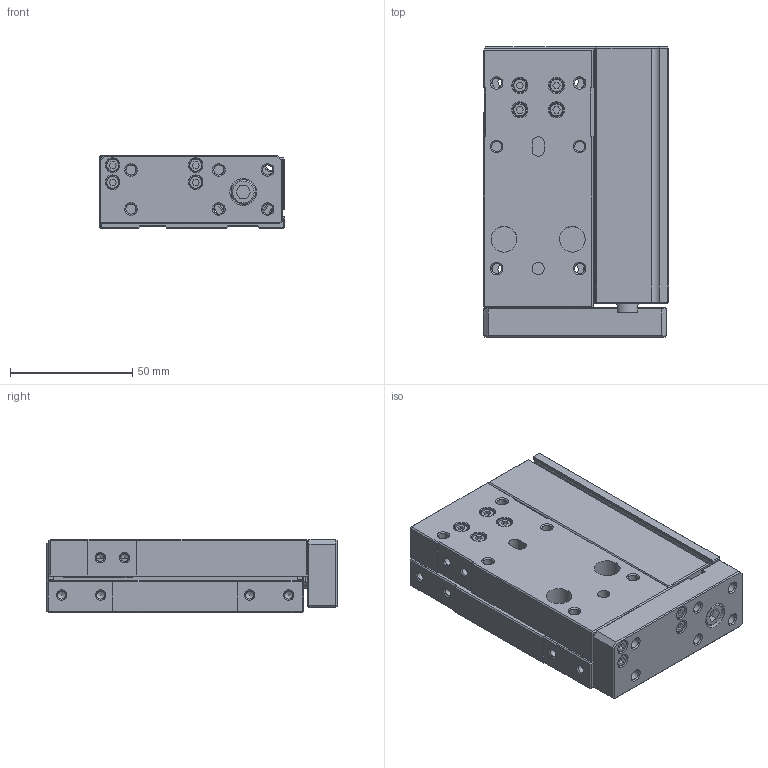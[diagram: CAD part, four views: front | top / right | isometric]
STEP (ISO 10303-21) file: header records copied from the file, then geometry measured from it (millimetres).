
FILE_DESCRIPTION((''),'2;1');
FILE_NAME('I:\3D電子目錄\氣缸\FMR(L)\FMR(L)\FMR20x50.stp','2007-10-15T16:04:52',('Administrator'),(''),'Autodesk Inventor 11','Autodesk Inventor 11','');
FILE_SCHEMA(('AUTOMOTIVE_DESIGN { 1 0 10303 214 1 1 1 1 }'));
Length unit declared in the file: millimetre
Products named in the file (1): FMR20x50
Bounding box: 76 x 118.8 x 30 mm (x, y, z)
Volume: 201748.7 mm3; surface area: 68387.9 mm2
Topology: 1 solids, 14 shells, 562 faces, 1295 edges, 814 vertices
Faces by surface type: plane 349, bspline 97, cylinder 68, cone 48
Full cylindrical faces by diameter (mm): 1 x2, 2 x2, 4.2 x1, 5 x3, 5.5 x8, 6 x1, 6.5 x1, 8 x2, 10 x4, 10.5 x2, 12 x1, 13 x1, 15 x1, 17.5 x2, 20 x3, 22 x4, 23.2 x2
Entity records: 15674 total; most frequent: CARTESIAN_POINT 3907, DIRECTION 2337, ORIENTED_EDGE 2180, EDGE_CURVE 1090, EDGE_LOOP 833, AXIS2_PLACEMENT_3D 795, VERTEX_POINT 765, VECTOR 747
